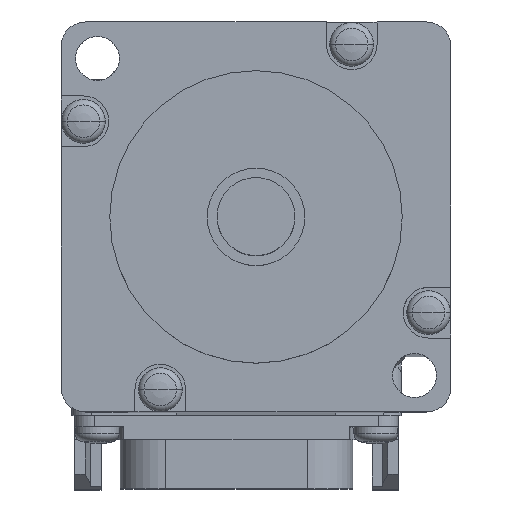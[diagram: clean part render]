
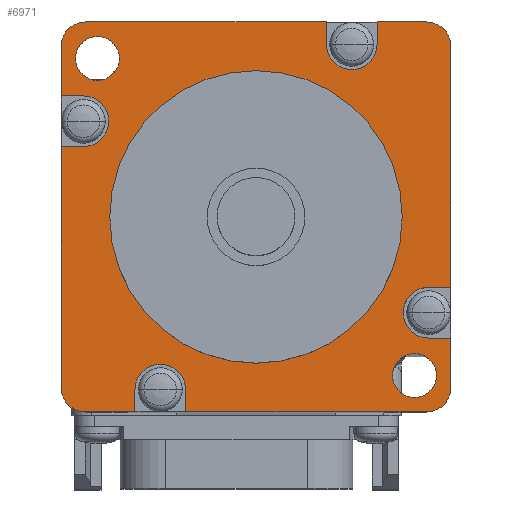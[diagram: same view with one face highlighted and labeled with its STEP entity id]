
A CAD part, top view. The second image highlights one B-rep face of the part: STEP entity #6971.
In plain terms, the highlighted planar face has unit normal (0, 0, 1).
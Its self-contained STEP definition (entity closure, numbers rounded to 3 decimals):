
#29=CARTESIAN_POINT('',(17.5,17.5,0.));
#30=DIRECTION('',(0.,0.,-1.));
#31=DIRECTION('',(0.,1.,0.));
#32=AXIS2_PLACEMENT_3D('',#29,#30,#31);
#34=CARTESIAN_POINT('',(17.711,-9.817,0.));
#35=DIRECTION('',(0.,0.,1.));
#36=DIRECTION('',(0.,1.,0.));
#37=AXIS2_PLACEMENT_3D('',#34,#35,#36);
#39=CARTESIAN_POINT('',(17.5,-17.5,0.));
#40=DIRECTION('',(0.,0.,-1.));
#41=DIRECTION('',(1.,0.,0.));
#42=AXIS2_PLACEMENT_3D('',#39,#40,#41);
#44=CARTESIAN_POINT('',(-9.817,-17.711,0.));
#45=DIRECTION('',(0.,0.,1.));
#46=DIRECTION('',(1.,0.,0.));
#47=AXIS2_PLACEMENT_3D('',#44,#45,#46);
#49=CARTESIAN_POINT('',(-17.5,-17.5,0.));
#50=DIRECTION('',(0.,0.,-1.));
#51=DIRECTION('',(0.,-1.,0.));
#52=AXIS2_PLACEMENT_3D('',#49,#50,#51);
#54=CARTESIAN_POINT('',(-17.711,9.817,0.));
#55=DIRECTION('',(0.,0.,1.));
#56=DIRECTION('',(0.,-1.,0.));
#57=AXIS2_PLACEMENT_3D('',#54,#55,#56);
#59=CARTESIAN_POINT('',(-17.5,17.5,0.));
#60=DIRECTION('',(0.,0.,-1.));
#61=DIRECTION('',(-1.,0.,0.));
#62=AXIS2_PLACEMENT_3D('',#59,#60,#61);
#64=CARTESIAN_POINT('',(9.817,17.711,0.));
#65=DIRECTION('',(0.,0.,1.));
#66=DIRECTION('',(-1.,0.,0.));
#67=AXIS2_PLACEMENT_3D('',#64,#65,#66);
#69=CARTESIAN_POINT('',(16.263,-16.263,0.));
#70=DIRECTION('',(0.,0.,1.));
#71=DIRECTION('',(0.,-1.,0.));
#72=AXIS2_PLACEMENT_3D('',#69,#70,#71);
#74=CARTESIAN_POINT('',(16.263,-16.263,0.));
#75=DIRECTION('',(0.,0.,1.));
#76=DIRECTION('',(0.,1.,0.));
#77=AXIS2_PLACEMENT_3D('',#74,#75,#76);
#79=CARTESIAN_POINT('',(-16.263,16.263,0.));
#80=DIRECTION('',(0.,0.,1.));
#81=DIRECTION('',(0.,1.,0.));
#82=AXIS2_PLACEMENT_3D('',#79,#80,#81);
#84=CARTESIAN_POINT('',(-16.263,16.263,0.));
#85=DIRECTION('',(0.,0.,1.));
#86=DIRECTION('',(0.,-1.,0.));
#87=AXIS2_PLACEMENT_3D('',#84,#85,#86);
#89=CARTESIAN_POINT('',(0.,0.,0.));
#90=DIRECTION('',(0.,0.,1.));
#91=DIRECTION('',(-1.,0.,0.));
#92=AXIS2_PLACEMENT_3D('',#89,#90,#91);
#94=CARTESIAN_POINT('',(0.,0.,0.));
#95=DIRECTION('',(0.,0.,1.));
#96=DIRECTION('',(1.,0.,0.));
#97=AXIS2_PLACEMENT_3D('',#94,#95,#96);
#167=DIRECTION('',(-1.,0.,0.));
#168=VECTOR('',#167,5.083);
#169=CARTESIAN_POINT('',(17.5,20.,0.));
#170=LINE('',#169,#168);
#171=DIRECTION('',(-1.,0.,0.));
#172=VECTOR('',#171,24.717);
#173=CARTESIAN_POINT('',(7.217,20.,0.));
#174=LINE('',#173,#172);
#336=DIRECTION('',(0.,-1.,0.));
#337=VECTOR('',#336,5.083);
#338=CARTESIAN_POINT('',(-20.,17.5,0.));
#339=LINE('',#338,#337);
#340=DIRECTION('',(0.,-1.,0.));
#341=VECTOR('',#340,24.717);
#342=CARTESIAN_POINT('',(-20.,7.217,0.));
#343=LINE('',#342,#341);
#827=DIRECTION('',(0.,1.,0.));
#828=VECTOR('',#827,5.083);
#829=CARTESIAN_POINT('',(20.,-17.5,0.));
#830=LINE('',#829,#828);
#831=DIRECTION('',(0.,1.,0.));
#832=VECTOR('',#831,24.717);
#833=CARTESIAN_POINT('',(20.,-7.217,0.));
#834=LINE('',#833,#832);
#1009=DIRECTION('',(1.,0.,0.));
#1010=VECTOR('',#1009,5.083);
#1011=CARTESIAN_POINT('',(-17.5,-20.,0.));
#1012=LINE('',#1011,#1010);
#1013=DIRECTION('',(1.,0.,0.));
#1014=VECTOR('',#1013,24.717);
#1015=CARTESIAN_POINT('',(-7.217,-20.,0.));
#1016=LINE('',#1015,#1014);
#4718=DIRECTION('',(0.,1.,0.));
#4719=VECTOR('',#4718,2.289);
#4720=CARTESIAN_POINT('',(-12.417,-20.,0.));
#4721=LINE('',#4720,#4719);
#4734=DIRECTION('',(0.,-1.,0.));
#4735=VECTOR('',#4734,2.289);
#4736=CARTESIAN_POINT('',(-7.217,-17.711,0.));
#4737=LINE('',#4736,#4735);
#4817=DIRECTION('',(-1.,0.,0.));
#4818=VECTOR('',#4817,2.289);
#4819=CARTESIAN_POINT('',(20.,-12.417,0.));
#4820=LINE('',#4819,#4818);
#4833=DIRECTION('',(1.,0.,0.));
#4834=VECTOR('',#4833,2.289);
#4835=CARTESIAN_POINT('',(17.711,-7.217,0.));
#4836=LINE('',#4835,#4834);
#5060=DIRECTION('',(1.,0.,0.));
#5061=VECTOR('',#5060,2.289);
#5062=CARTESIAN_POINT('',(-20.,12.417,0.));
#5063=LINE('',#5062,#5061);
#5076=DIRECTION('',(-1.,0.,0.));
#5077=VECTOR('',#5076,2.289);
#5078=CARTESIAN_POINT('',(-17.711,7.217,0.));
#5079=LINE('',#5078,#5077);
#5215=DIRECTION('',(0.,-1.,0.));
#5216=VECTOR('',#5215,2.289);
#5217=CARTESIAN_POINT('',(12.417,20.,0.));
#5218=LINE('',#5217,#5216);
#5231=DIRECTION('',(0.,1.,0.));
#5232=VECTOR('',#5231,2.289);
#5233=CARTESIAN_POINT('',(7.217,17.711,0.));
#5234=LINE('',#5233,#5232);
#5360=CARTESIAN_POINT('',(15.,0.,0.));
#5361=VERTEX_POINT('',#5360);
#5362=CARTESIAN_POINT('',(-15.,0.,0.));
#5363=VERTEX_POINT('',#5362);
#5364=CARTESIAN_POINT('',(16.263,-18.513,0.));
#5365=CARTESIAN_POINT('',(16.263,-14.013,0.));
#5366=VERTEX_POINT('',#5364);
#5367=VERTEX_POINT('',#5365);
#5368=CARTESIAN_POINT('',(-16.263,18.513,0.));
#5369=CARTESIAN_POINT('',(-16.263,14.013,0.));
#5370=VERTEX_POINT('',#5368);
#5371=VERTEX_POINT('',#5369);
#5372=CARTESIAN_POINT('',(17.5,20.,0.));
#5373=CARTESIAN_POINT('',(20.,17.5,0.));
#5374=VERTEX_POINT('',#5372);
#5375=VERTEX_POINT('',#5373);
#5376=CARTESIAN_POINT('',(17.711,-7.217,0.));
#5377=CARTESIAN_POINT('',(20.,-7.217,0.));
#5378=VERTEX_POINT('',#5376);
#5379=VERTEX_POINT('',#5377);
#5380=CARTESIAN_POINT('',(17.711,-12.417,0.));
#5381=VERTEX_POINT('',#5380);
#5382=CARTESIAN_POINT('',(20.,-12.417,0.));
#5383=VERTEX_POINT('',#5382);
#5384=CARTESIAN_POINT('',(20.,-17.5,0.));
#5385=CARTESIAN_POINT('',(17.5,-20.,0.));
#5386=VERTEX_POINT('',#5384);
#5387=VERTEX_POINT('',#5385);
#5388=CARTESIAN_POINT('',(-7.217,-17.711,0.));
#5389=CARTESIAN_POINT('',(-7.217,-20.,0.));
#5390=VERTEX_POINT('',#5388);
#5391=VERTEX_POINT('',#5389);
#5392=CARTESIAN_POINT('',(-12.417,-17.711,0.));
#5393=VERTEX_POINT('',#5392);
#5394=CARTESIAN_POINT('',(-12.417,-20.,0.));
#5395=VERTEX_POINT('',#5394);
#5396=CARTESIAN_POINT('',(-17.5,-20.,0.));
#5397=CARTESIAN_POINT('',(-20.,-17.5,0.));
#5398=VERTEX_POINT('',#5396);
#5399=VERTEX_POINT('',#5397);
#5400=CARTESIAN_POINT('',(-17.711,7.217,0.));
#5401=CARTESIAN_POINT('',(-20.,7.217,0.));
#5402=VERTEX_POINT('',#5400);
#5403=VERTEX_POINT('',#5401);
#5404=CARTESIAN_POINT('',(-17.711,12.417,0.));
#5405=VERTEX_POINT('',#5404);
#5406=CARTESIAN_POINT('',(-20.,12.417,0.));
#5407=VERTEX_POINT('',#5406);
#5408=CARTESIAN_POINT('',(-20.,17.5,0.));
#5409=CARTESIAN_POINT('',(-17.5,20.,0.));
#5410=VERTEX_POINT('',#5408);
#5411=VERTEX_POINT('',#5409);
#5412=CARTESIAN_POINT('',(7.217,17.711,0.));
#5413=CARTESIAN_POINT('',(7.217,20.,0.));
#5414=VERTEX_POINT('',#5412);
#5415=VERTEX_POINT('',#5413);
#5416=CARTESIAN_POINT('',(12.417,17.711,0.));
#5417=VERTEX_POINT('',#5416);
#5418=CARTESIAN_POINT('',(12.417,20.,0.));
#5419=VERTEX_POINT('',#5418);
#6900=CARTESIAN_POINT('',(0.,0.,0.));
#6901=DIRECTION('',(0.,0.,1.));
#6902=DIRECTION('',(1.,0.,0.));
#6903=AXIS2_PLACEMENT_3D('',#6900,#6901,#6902);
#6904=PLANE('',#6903);
#6906=ORIENTED_EDGE('',*,*,#6905,.T.);
#6908=ORIENTED_EDGE('',*,*,#6907,.F.);
#6910=ORIENTED_EDGE('',*,*,#6909,.F.);
#6912=ORIENTED_EDGE('',*,*,#6911,.T.);
#6914=ORIENTED_EDGE('',*,*,#6913,.F.);
#6916=ORIENTED_EDGE('',*,*,#6915,.F.);
#6918=ORIENTED_EDGE('',*,*,#6917,.T.);
#6920=ORIENTED_EDGE('',*,*,#6919,.F.);
#6922=ORIENTED_EDGE('',*,*,#6921,.F.);
#6924=ORIENTED_EDGE('',*,*,#6923,.T.);
#6926=ORIENTED_EDGE('',*,*,#6925,.F.);
#6928=ORIENTED_EDGE('',*,*,#6927,.F.);
#6930=ORIENTED_EDGE('',*,*,#6929,.T.);
#6932=ORIENTED_EDGE('',*,*,#6931,.F.);
#6934=ORIENTED_EDGE('',*,*,#6933,.F.);
#6936=ORIENTED_EDGE('',*,*,#6935,.T.);
#6938=ORIENTED_EDGE('',*,*,#6937,.F.);
#6940=ORIENTED_EDGE('',*,*,#6939,.F.);
#6942=ORIENTED_EDGE('',*,*,#6941,.T.);
#6944=ORIENTED_EDGE('',*,*,#6943,.F.);
#6946=ORIENTED_EDGE('',*,*,#6945,.F.);
#6948=ORIENTED_EDGE('',*,*,#6947,.T.);
#6950=ORIENTED_EDGE('',*,*,#6949,.F.);
#6952=ORIENTED_EDGE('',*,*,#6951,.F.);
#6953=EDGE_LOOP('',(#6906,#6908,#6910,#6912,#6914,#6916,#6918,#6920,#6922,#6924,
#6926,#6928,#6930,#6932,#6934,#6936,#6938,#6940,#6942,#6944,#6946,#6948,#6950,
#6952));
#6954=FACE_OUTER_BOUND('',#6953,.F.);
#6956=ORIENTED_EDGE('',*,*,#6955,.T.);
#6958=ORIENTED_EDGE('',*,*,#6957,.T.);
#6959=EDGE_LOOP('',(#6956,#6958));
#6960=FACE_BOUND('',#6959,.F.);
#6962=ORIENTED_EDGE('',*,*,#6961,.T.);
#6964=ORIENTED_EDGE('',*,*,#6963,.T.);
#6965=EDGE_LOOP('',(#6962,#6964));
#6966=FACE_BOUND('',#6965,.F.);
#6967=ORIENTED_EDGE('',*,*,#6880,.T.);
#6968=ORIENTED_EDGE('',*,*,#6894,.T.);
#6969=EDGE_LOOP('',(#6967,#6968));
#6970=FACE_BOUND('',#6969,.F.);
#6971=ADVANCED_FACE('',(#6954,#6960,#6966,#6970),#6904,.T.);
#33=CIRCLE('',#32,2.5);
#38=CIRCLE('',#37,2.6);
#43=CIRCLE('',#42,2.5);
#48=CIRCLE('',#47,2.6);
#53=CIRCLE('',#52,2.5);
#58=CIRCLE('',#57,2.6);
#63=CIRCLE('',#62,2.5);
#68=CIRCLE('',#67,2.6);
#73=CIRCLE('',#72,2.25);
#78=CIRCLE('',#77,2.25);
#83=CIRCLE('',#82,2.25);
#88=CIRCLE('',#87,2.25);
#93=CIRCLE('',#92,15.);
#98=CIRCLE('',#97,15.);
#6880=EDGE_CURVE('',#5363,#5361,#93,.T.);
#6894=EDGE_CURVE('',#5361,#5363,#98,.T.);
#6905=EDGE_CURVE('',#5374,#5375,#33,.T.);
#6907=EDGE_CURVE('',#5379,#5375,#834,.T.);
#6909=EDGE_CURVE('',#5378,#5379,#4836,.T.);
#6911=EDGE_CURVE('',#5378,#5381,#38,.T.);
#6913=EDGE_CURVE('',#5383,#5381,#4820,.T.);
#6915=EDGE_CURVE('',#5386,#5383,#830,.T.);
#6917=EDGE_CURVE('',#5386,#5387,#43,.T.);
#6919=EDGE_CURVE('',#5391,#5387,#1016,.T.);
#6921=EDGE_CURVE('',#5390,#5391,#4737,.T.);
#6923=EDGE_CURVE('',#5390,#5393,#48,.T.);
#6925=EDGE_CURVE('',#5395,#5393,#4721,.T.);
#6927=EDGE_CURVE('',#5398,#5395,#1012,.T.);
#6929=EDGE_CURVE('',#5398,#5399,#53,.T.);
#6931=EDGE_CURVE('',#5403,#5399,#343,.T.);
#6933=EDGE_CURVE('',#5402,#5403,#5079,.T.);
#6935=EDGE_CURVE('',#5402,#5405,#58,.T.);
#6937=EDGE_CURVE('',#5407,#5405,#5063,.T.);
#6939=EDGE_CURVE('',#5410,#5407,#339,.T.);
#6941=EDGE_CURVE('',#5410,#5411,#63,.T.);
#6943=EDGE_CURVE('',#5415,#5411,#174,.T.);
#6945=EDGE_CURVE('',#5414,#5415,#5234,.T.);
#6947=EDGE_CURVE('',#5414,#5417,#68,.T.);
#6949=EDGE_CURVE('',#5419,#5417,#5218,.T.);
#6951=EDGE_CURVE('',#5374,#5419,#170,.T.);
#6955=EDGE_CURVE('',#5366,#5367,#73,.T.);
#6957=EDGE_CURVE('',#5367,#5366,#78,.T.);
#6961=EDGE_CURVE('',#5370,#5371,#83,.T.);
#6963=EDGE_CURVE('',#5371,#5370,#88,.T.);
